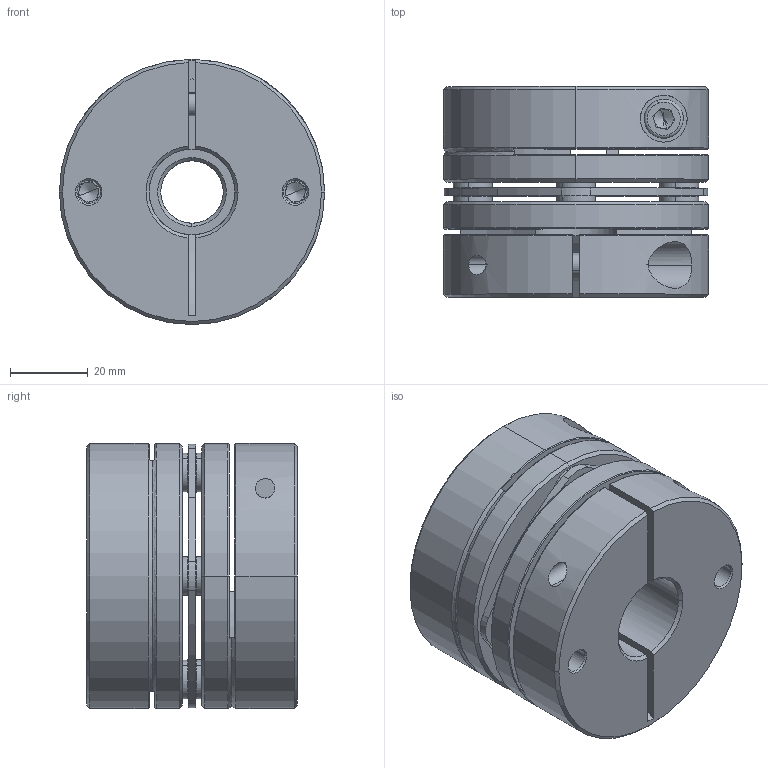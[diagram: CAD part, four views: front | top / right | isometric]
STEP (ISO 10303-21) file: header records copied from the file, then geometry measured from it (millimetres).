
FILE_DESCRIPTION (( 'STEP AP203' ), '1' );
FILE_NAME ('LD1-D68-16-22.STEP', '2021-10-26T07:48:56', ( '' ), ( '' ), 'SwSTEP 2.0', 'SolidWorks 2018', '' );
FILE_SCHEMA (( 'CONFIG_CONTROL_DESIGN' ));
Length unit declared in the file: millimetre
Products named in the file (2): LD1-D68-16-22; 錨璃101^LD1-D68
Assembly tree (1 placements, depth 2):
  LD1-D68-16-22
    錨璃101^LD1-D68
Bounding box: 68 x 54 x 68 mm (x, y, z)
Volume: 152071.3 mm3; surface area: 46951.8 mm2
Topology: 1 solids, 15 shells, 443 faces, 1063 edges, 652 vertices
Faces by surface type: cylinder 161, plane 138, cone 122, torus 22
Entity records: 13477 total; most frequent: CARTESIAN_POINT 2615, DIRECTION 2435, ORIENTED_EDGE 2094, EDGE_CURVE 1047, AXIS2_PLACEMENT_3D 988, VERTEX_POINT 652, CIRCLE 541, EDGE_LOOP 523
